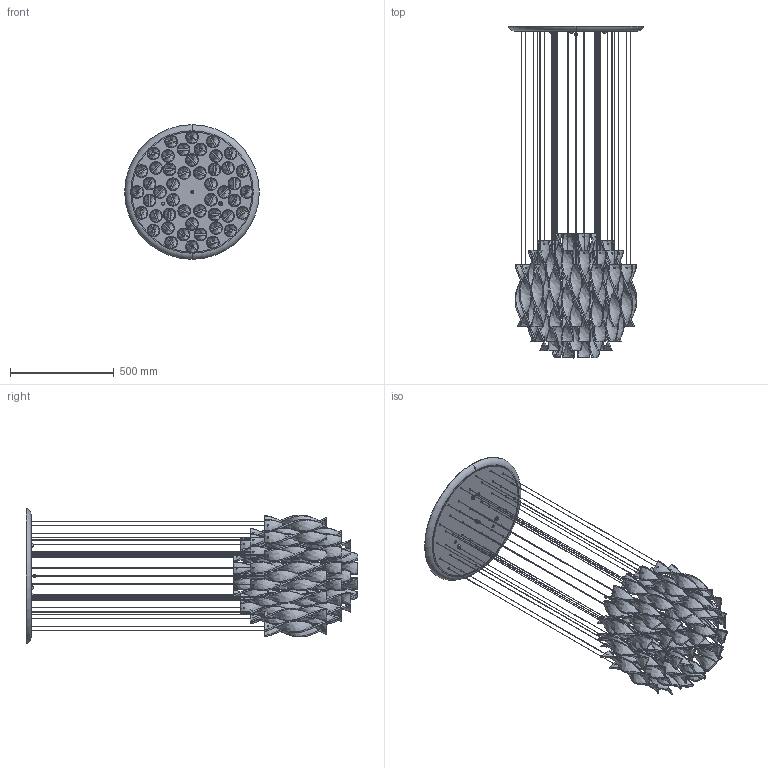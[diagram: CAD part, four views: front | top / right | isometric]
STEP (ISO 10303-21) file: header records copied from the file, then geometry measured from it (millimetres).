
FILE_DESCRIPTION (( 'STEP AP203' ), '1' );
FILE_NAME ('SPAURA60XXXXE27-3D.STEP', '2015-02-13T10:11:12', ( '' ), ( '' ), 'SwSTEP 2.0', 'SolidWorks 2014', '' );
FILE_SCHEMA (( 'CONFIG_CONTROL_DESIGN' ));
Length unit declared in the file: millimetre
Products named in the file (1): SPAURA60XXXXE27-3D
Bounding box: 650 x 1601.83 x 650 mm (x, y, z)
Volume: 9353997.4 mm3; surface area: 4173529.6 mm2
Topology: 102 solids, 102 shells, 982 faces, 2195 edges, 1456 vertices
Faces by surface type: cylinder 438, bspline 272, plane 254, cone 8, sphere 6, torus 4
Entity records: 79800 total; most frequent: CARTESIAN_POINT 58506, ORIENTED_EDGE 4354, DIRECTION 3887, EDGE_CURVE 2177, AXIS2_PLACEMENT_3D 1579, VERTEX_POINT 1450, EDGE_LOOP 1347, FACE_OUTER_BOUND 982
